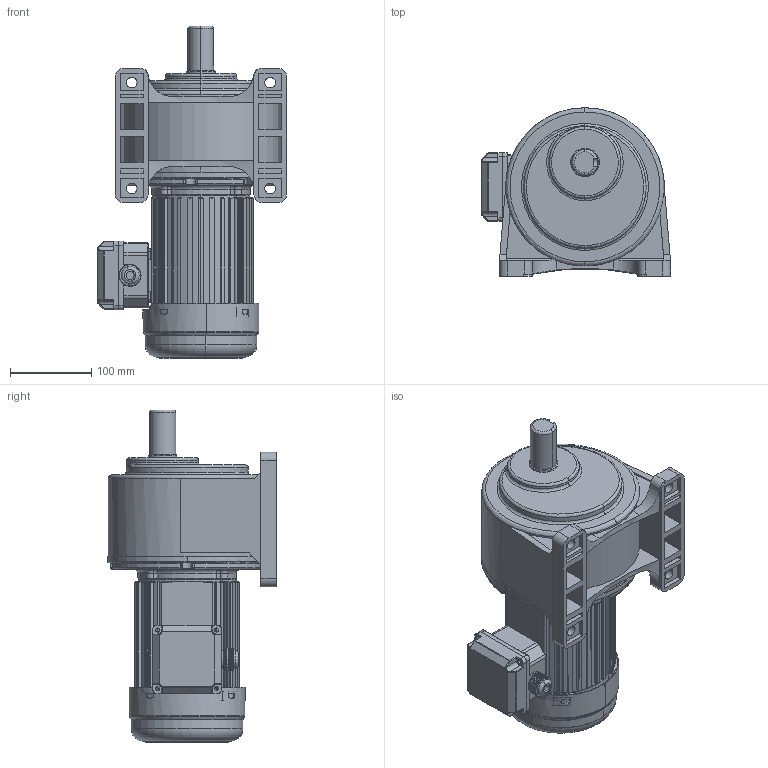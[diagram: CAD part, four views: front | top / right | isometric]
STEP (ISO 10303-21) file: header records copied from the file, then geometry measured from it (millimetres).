
FILE_DESCRIPTION (( 'STEP AP203' ), '1' );
FILE_NAME ('400W饜4#湍价陬拏宒.STEP', '2020-04-17T05:53:39', ( '' ), ( '' ), 'SwSTEP 2.0', 'SolidWorks 2019', '' );
FILE_SCHEMA (( 'CONFIG_CONTROL_DESIGN' ));
Length unit declared in the file: millimetre
Products named in the file (7): 諉芛; 400W饜4#湍价陬拏宒; 400W价陬瑞欶; 400W饜4#拏宒; 400W棠憤迖殤; 蜊輛綴諉盄碟釱3; 湍价陬諉盄碟裔
Assembly tree (6 placements, depth 2):
  400W饜4#湍价陬拏宒
    400W饜4#拏宒
    400W棠憤迖殤
    400W价陬瑞欶
    蜊輛綴諉盄碟釱3
    諉芛
    湍价陬諉盄碟裔
Bounding box: 232 x 207.01 x 407.5 mm (x, y, z)
Volume: 4596662.4 mm3; surface area: 697603.4 mm2
Topology: 8 solids, 8 shells, 3337 faces, 8666 edges, 5394 vertices
Faces by surface type: plane 1159, cylinder 992, bspline 541, torus 375, cone 238, sphere 32
Entity records: 143138 total; most frequent: CARTESIAN_POINT 66925, ORIENTED_EDGE 17238, DIRECTION 13812, EDGE_CURVE 8619, VERTEX_POINT 5391, AXIS2_PLACEMENT_3D 5161, EDGE_LOOP 3646, VECTOR 3490
